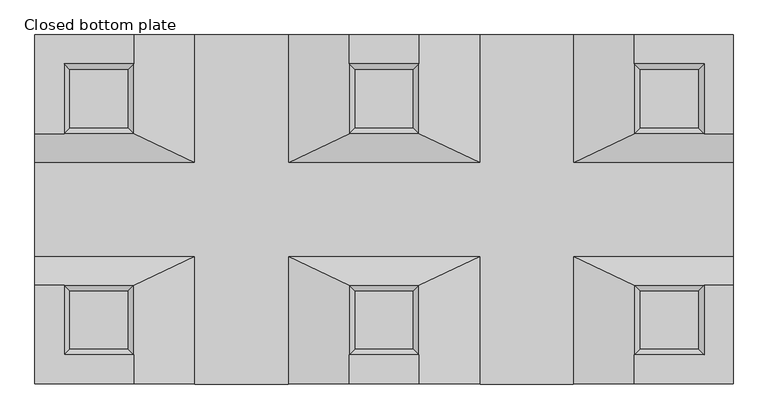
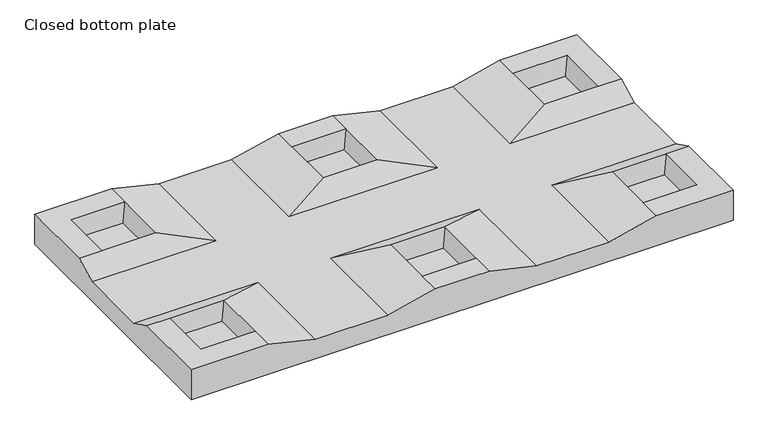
"""IFC4 building model written with IfcOpenShell, lengths in millimetres: unitary equipment geometry, Z_ME_UN_Q-Bic_Plus_Bottom_Plate_Wavin_(nested) : Closed bottom plate."""

from ifc_helpers import new_model, si_unit, origin, place, context, project, spatial, faceted_brep, source, transform, mapped, element, save


def closed_bottom_plate_7d425a97(model_context):
    return source(origin(), model_context, "Body", "Brep", [
        faceted_brep([(1200.0, 600.0, -70.0), (1200.0, 0.0, -70.0), (0.0, 0.0, -70.0), (0.0, 600.0, -70.0), (0.0, 220.0, -25.0), (275.0, 220.0, -25.0), (275.0, 0.0, -25.0), (435.0, 0.0, -25.0), (435.0, 220.0, -25.0), (765.0, 220.0, -25.0), (765.0, 0.0, -25.0), (925.0, 0.0, -25.0), (925.0, 220.0, -25.0), (1200.0, 220.0, -25.0), (1200.0, 380.0, -25.0), (925.0, 380.0, -25.0), (925.0, 600.0, -25.0), (765.0, 600.0, -25.0), (765.0, 380.0, -25.0), (435.0, 380.0, -25.0), (435.0, 600.0, -25.0), (275.0, 600.0, -25.0), (275.0, 380.0, -25.0), (0.0, 380.0, -25.0), (0.0, 600.0, 0.0), (170.0, 600.0, 0.0), (540.0, 600.0, 0.0), (660.0, 600.0, 0.0), (1030.0, 600.0, 0.0), (1200.0, 600.0, 0.0), (0.0, 0.0, 0.0), (0.0, 170.0, 0.0), (0.0, 430.0, 0.0), (1200.0, 0.0, 0.0), (1030.0, 0.0, 0.0), (660.0, 0.0, 0.0), (540.0, 0.0, 0.0), (170.0, 0.0, 0.0), (1200.0, 430.0, 0.0), (1200.0, 170.0, 0.0), (170.0, 50.0, 0.0), (50.0, 50.0, 0.0), (50.0, 170.0, 0.0), (170.0, 170.0, 0.0), (50.0, 430.0, 0.0), (50.0, 550.0, 0.0), (170.0, 550.0, 0.0), (170.0, 430.0, 0.0), (540.0, 550.0, 0.0), (660.0, 550.0, 0.0), (540.0, 430.0, 0.0), (660.0, 430.0, 0.0), (660.0, 50.0, 0.0), (540.0, 50.0, 0.0), (540.0, 170.0, 0.0), (660.0, 170.0, 0.0), (1150.0, 170.0, 0.0), (1150.0, 50.0, 0.0), (1030.0, 50.0, 0.0), (1030.0, 170.0, 0.0), (1030.0, 550.0, 0.0), (1150.0, 550.0, 0.0), (1150.0, 430.0, 0.0), (1030.0, 430.0, 0.0), (160.0, 540.0, -40.0), (60.0, 540.0, -40.0), (60.0, 440.0, -40.0), (160.0, 440.0, -40.0), (160.0, 160.0, -40.0), (60.0, 160.0, -40.0), (60.0, 60.0, -40.0), (160.0, 60.0, -40.0), (650.0, 160.0, -40.0), (550.0, 160.0, -40.0), (550.0, 60.0, -40.0), (650.0, 60.0, -40.0), (1140.0, 160.0, -40.0), (1040.0, 160.0, -40.0), (1040.0, 60.0, -40.0), (1140.0, 60.0, -40.0), (650.0, 540.0, -40.0), (550.0, 540.0, -40.0), (550.0, 440.0, -40.0), (650.0, 440.0, -40.0), (1140.0, 540.0, -40.0), (1040.0, 540.0, -40.0), (1040.0, 440.0, -40.0), (1140.0, 440.0, -40.0)], [[[0, 1, 2, 3]], [[4, 5, 6, 7, 8, 9, 10, 11, 12, 13, 14, 15, 16, 17, 18, 19, 20, 21, 22, 23]], [[0, 3, 24, 25, 21, 20, 26, 27, 17, 16, 28, 29]], [[3, 2, 30, 31, 4, 23, 32, 24]], [[2, 1, 33, 34, 11, 10, 35, 36, 7, 6, 37, 30]], [[1, 0, 29, 38, 14, 13, 39, 33]], [[31, 30, 37, 40, 41, 42]], [[4, 31, 42, 43, 5]], [[5, 43, 40, 37, 6]], [[25, 24, 32, 44, 45, 46]], [[32, 23, 22, 47, 44]], [[21, 25, 46, 47, 22]], [[27, 26, 48, 49]], [[26, 20, 19, 50, 48]], [[50, 19, 18, 51]], [[17, 27, 49, 51, 18]], [[36, 35, 52, 53]], [[8, 54, 55, 9]], [[54, 8, 7, 36, 53]], [[9, 55, 52, 35, 10]], [[34, 33, 39, 56, 57, 58]], [[12, 59, 56, 39, 13]], [[59, 12, 11, 34, 58]], [[29, 28, 60, 61, 62, 38]], [[28, 16, 15, 63, 60]], [[63, 15, 14, 38, 62]], [[64, 65, 66, 67]], [[65, 64, 46, 45]], [[66, 65, 45, 44]], [[67, 66, 44, 47]], [[64, 67, 47, 46]], [[68, 69, 70, 71]], [[69, 68, 43, 42]], [[70, 69, 42, 41]], [[71, 70, 41, 40]], [[68, 71, 40, 43]], [[72, 73, 74, 75]], [[73, 72, 55, 54]], [[74, 73, 54, 53]], [[75, 74, 53, 52]], [[72, 75, 52, 55]], [[76, 77, 78, 79]], [[77, 76, 56, 59]], [[78, 77, 59, 58]], [[79, 78, 58, 57]], [[76, 79, 57, 56]], [[80, 81, 82, 83]], [[81, 80, 49, 48]], [[82, 81, 48, 50]], [[83, 82, 50, 51]], [[80, 83, 51, 49]], [[84, 85, 86, 87]], [[85, 84, 61, 60]], [[86, 85, 60, 63]], [[87, 86, 63, 62]], [[84, 87, 62, 61]]]),
    ])


if __name__ == "__main__":
    model = new_model("IFC4")
    model_context = context("Model", 3, world=origin())
    ifc_project = project(units=[si_unit("LENGTHUNIT", "METRE", prefix="MILLI")], contexts=[model_context])
    site = spatial("IfcSite", under=ifc_project)
    building = spatial("IfcBuilding", under=site)
    placement = place(None, origin())
    closed_bottom_plate_shape = closed_bottom_plate_7d425a97(model_context)
    element("IfcUnitaryEquipment", 1, ObjectType="Z_ME_UN_Q-Bic_Plus_Bottom_Plate_Wavin_(nested) : Closed bottom plate", at=placement, inside=building, context=model_context, shape_type="MappedRepresentation", body=[
        mapped(closed_bottom_plate_shape, transform((0.0, 0.0, 0.0), x_axis=(1.0, 0.0, 0.0), y_axis=(0.0, 1.0, 0.0), z_axis=(0.0, 0.0, 1.0))),
    ])
    save(model, "model.ifc")
